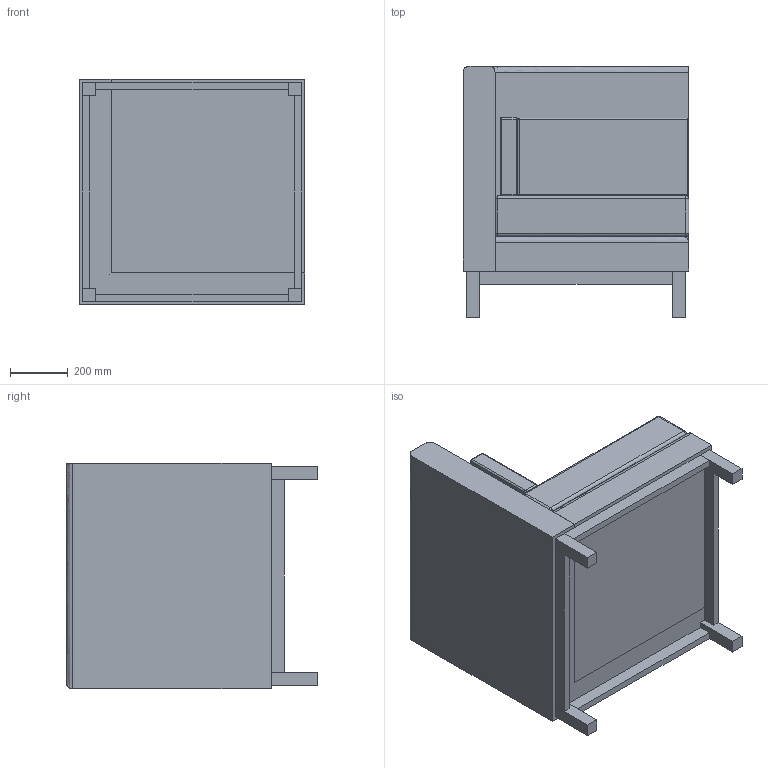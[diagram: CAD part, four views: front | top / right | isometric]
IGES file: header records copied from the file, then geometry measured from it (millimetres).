
Start section: SolidWorks IGES file using analytic representation for surfaces
Global section: file name: P:\3D CAD BLOCKS\ARTHUR CITYSCAPE\LB Plain Corner\IGS\ART-LB-PLAIN-ART-CITY-CORNER.IGS; native system: SolidWorks 2012; preprocessor: SolidWorks 2012; author: tom; date: 160523.093512; units: millimetre
Bounding box: 780 x 868 x 780 mm (x, y, z)
Surface area: 6333877 mm2 (no closed solid volume)
Topology: 0 solids, 0 shells, 146 faces, 696 edges, 690 vertices
Faces by surface type: bspline 80, revolution 66
